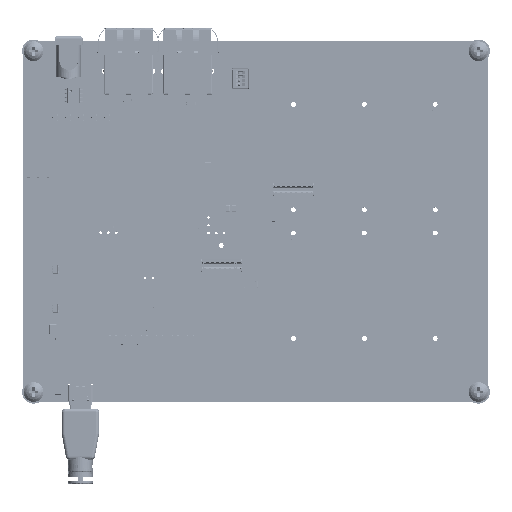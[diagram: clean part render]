
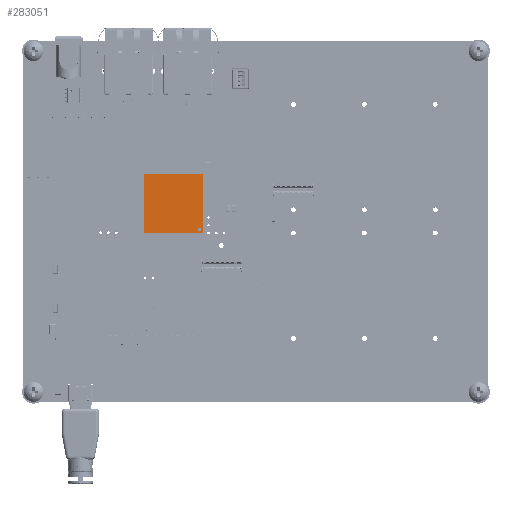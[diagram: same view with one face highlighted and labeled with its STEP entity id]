
A CAD part, top view. The second image highlights one B-rep face of the part: STEP entity #283051.
In plain terms, the highlighted planar face has unit normal (0, 0, 1).
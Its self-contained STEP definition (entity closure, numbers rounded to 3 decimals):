
#282887 = EDGE_CURVE('',#282888,#282890,#282892,.T.);
#282888 = VERTEX_POINT('',#282889);
#282889 = CARTESIAN_POINT('',(-7.95,8.5,2.05));
#282890 = VERTEX_POINT('',#282891);
#282891 = CARTESIAN_POINT('',(-9.05,8.5,2.05));
#282892 = CIRCLE('',#282893,0.55);
#282893 = AXIS2_PLACEMENT_3D('',#282894,#282895,#282896);
#282894 = CARTESIAN_POINT('',(-8.5,8.5,2.05));
#282895 = DIRECTION('',(0.,0.,-1.));
#282896 = DIRECTION('',(-1.,0.,0.));
#282942 = VERTEX_POINT('',#282943);
#282943 = CARTESIAN_POINT('',(-9.5,9.5,2.05));
#282949 = EDGE_CURVE('',#282950,#282942,#282952,.T.);
#282950 = VERTEX_POINT('',#282951);
#282951 = CARTESIAN_POINT('',(9.5,9.5,2.05));
#282952 = LINE('',#282953,#282954);
#282953 = CARTESIAN_POINT('',(-9.5,9.5,2.05));
#282954 = VECTOR('',#282955,1.);
#282955 = DIRECTION('',(-1.,0.,0.));
#282980 = VERTEX_POINT('',#282981);
#282981 = CARTESIAN_POINT('',(-9.5,-9.5,2.05));
#282987 = EDGE_CURVE('',#282942,#282980,#282988,.T.);
#282988 = LINE('',#282989,#282990);
#282989 = CARTESIAN_POINT('',(-9.5,-9.5,2.05));
#282990 = VECTOR('',#282991,1.);
#282991 = DIRECTION('',(0.,-1.,0.));
#283011 = VERTEX_POINT('',#283012);
#283012 = CARTESIAN_POINT('',(9.5,-9.5,2.05));
#283018 = EDGE_CURVE('',#282980,#283011,#283019,.T.);
#283019 = LINE('',#283020,#283021);
#283020 = CARTESIAN_POINT('',(-9.5,-9.5,2.05));
#283021 = VECTOR('',#283022,1.);
#283022 = DIRECTION('',(1.,0.,0.));
#283040 = EDGE_CURVE('',#283011,#282950,#283041,.T.);
#283041 = LINE('',#283042,#283043);
#283042 = CARTESIAN_POINT('',(9.5,-9.5,2.05));
#283043 = VECTOR('',#283044,1.);
#283044 = DIRECTION('',(0.,1.,0.));
#283051 = ADVANCED_FACE('',(#283052,#283062),#283068,.T.);
#283052 = FACE_BOUND('',#283053,.T.);
#283053 = EDGE_LOOP('',(#283054,#283061));
#283054 = ORIENTED_EDGE('',*,*,#283055,.T.);
#283055 = EDGE_CURVE('',#282890,#282888,#283056,.T.);
#283056 = CIRCLE('',#283057,0.55);
#283057 = AXIS2_PLACEMENT_3D('',#283058,#283059,#283060);
#283058 = CARTESIAN_POINT('',(-8.5,8.5,2.05));
#283059 = DIRECTION('',(0.,0.,-1.));
#283060 = DIRECTION('',(-1.,0.,0.));
#283061 = ORIENTED_EDGE('',*,*,#282887,.T.);
#283062 = FACE_BOUND('',#283063,.T.);
#283063 = EDGE_LOOP('',(#283064,#283065,#283066,#283067));
#283064 = ORIENTED_EDGE('',*,*,#282949,.T.);
#283065 = ORIENTED_EDGE('',*,*,#282987,.T.);
#283066 = ORIENTED_EDGE('',*,*,#283018,.T.);
#283067 = ORIENTED_EDGE('',*,*,#283040,.T.);
#283068 = PLANE('',#283069);
#283069 = AXIS2_PLACEMENT_3D('',#283070,#283071,#283072);
#283070 = CARTESIAN_POINT('',(0.,0.,2.05));
#283071 = DIRECTION('',(0.,0.,1.));
#283072 = DIRECTION('',(-1.,0.,0.));
